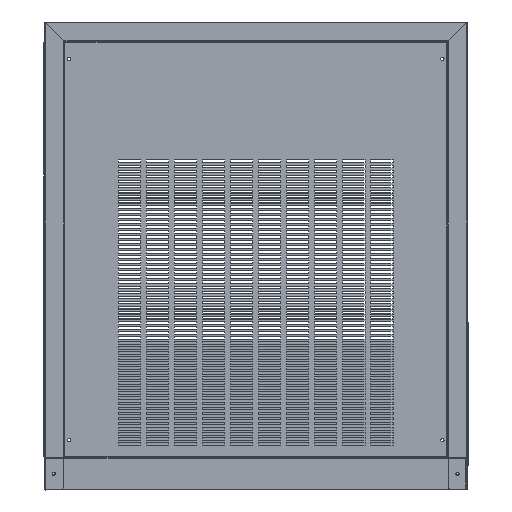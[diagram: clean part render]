
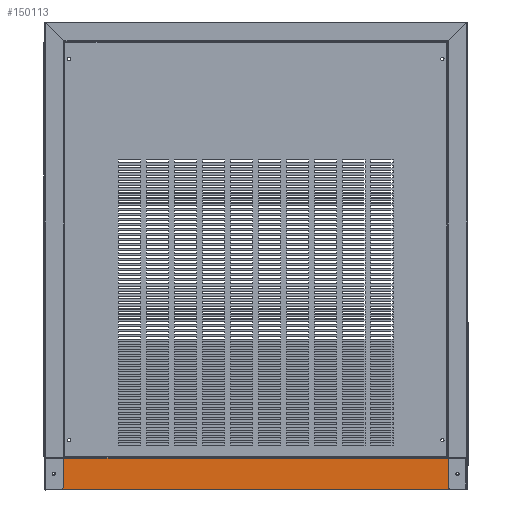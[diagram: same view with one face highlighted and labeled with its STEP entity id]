
A CAD part, left-side view. The second image highlights one B-rep face of the part: STEP entity #150113.
In plain terms, the highlighted planar face has unit normal (-1, 0, 0) as drawn and (1, 0, 0) by its records, which use the part's own axes.
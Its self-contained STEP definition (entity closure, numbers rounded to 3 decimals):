
#1164=CIRCLE('',#158550,2.067);
#1166=CIRCLE('',#158553,2.067);
#41684=ORIENTED_EDGE('',*,*,#62387,.T.);
#41685=ORIENTED_EDGE('',*,*,#62385,.T.);
#41686=ORIENTED_EDGE('',*,*,#62393,.T.);
#41687=ORIENTED_EDGE('',*,*,#62381,.T.);
#41688=ORIENTED_EDGE('',*,*,#62374,.T.);
#41689=ORIENTED_EDGE('',*,*,#62390,.F.);
#41690=ORIENTED_EDGE('',*,*,#62394,.F.);
#62374=EDGE_CURVE('',#76108,#76109,#95838,.T.);
#62381=EDGE_CURVE('',#76112,#76108,#95843,.T.);
#62385=EDGE_CURVE('',#76115,#76115,#1164,.T.);
#62387=EDGE_CURVE('',#76117,#76117,#1166,.T.);
#62390=EDGE_CURVE('',#76119,#76109,#95847,.T.);
#62393=EDGE_CURVE('',#76121,#76112,#95850,.T.);
#62394=EDGE_CURVE('',#76121,#76119,#95851,.T.);
#76108=VERTEX_POINT('',#235061);
#76109=VERTEX_POINT('',#235063);
#76112=VERTEX_POINT('',#235078);
#76115=VERTEX_POINT('',#235086);
#76117=VERTEX_POINT('',#235091);
#76119=VERTEX_POINT('',#235099);
#76121=VERTEX_POINT('',#235107);
#95838=LINE('',#235064,#115580);
#95843=LINE('',#235077,#115585);
#95847=LINE('',#235100,#115589);
#95850=LINE('',#235106,#115592);
#95851=LINE('',#235108,#115593);
#115580=VECTOR('',#193043,1000.);
#115585=VECTOR('',#193060,1000.);
#115589=VECTOR('',#193078,1000.);
#115592=VECTOR('',#193085,1000.);
#115593=VECTOR('',#193086,1000.);
#126065=EDGE_LOOP('',(#41684));
#126066=EDGE_LOOP('',(#41685));
#126067=EDGE_LOOP('',(#41686,#41687,#41688,#41689,#41690));
#136498=FACE_BOUND('',#126065,.T.);
#136499=FACE_BOUND('',#126066,.T.);
#136500=FACE_BOUND('',#126067,.T.);
#143172=PLANE('',#158556);
#150113=ADVANCED_FACE('',(#136498,#136499,#136500),#143172,.F.);
#158550=AXIS2_PLACEMENT_3D('',#235085,#193067,#193068);
#158553=AXIS2_PLACEMENT_3D('',#235090,#193073,#193074);
#158556=AXIS2_PLACEMENT_3D('',#235105,#193083,#193084);
#193043=DIRECTION('',(0.,-1.,0.));
#193060=DIRECTION('',(0.,-1.,0.));
#193067=DIRECTION('',(-1.,0.,0.));
#193068=DIRECTION('',(0.,0.,1.));
#193073=DIRECTION('',(-1.,0.,0.));
#193074=DIRECTION('',(0.,0.,1.));
#193078=DIRECTION('',(0.,0.,1.));
#193083=DIRECTION('',(-1.,0.,0.));
#193084=DIRECTION('',(0.,1.,0.));
#193085=DIRECTION('',(0.,0.,1.));
#193086=DIRECTION('',(0.,-1.,0.));
#235061=CARTESIAN_POINT('',(626.,374.498,-0.002));
#235063=CARTESIAN_POINT('',(626.,-374.498,-0.002));
#235064=CARTESIAN_POINT('',(626.,374.498,-0.002));
#235077=CARTESIAN_POINT('',(626.,374.5,-0.002));
#235078=CARTESIAN_POINT('',(626.,374.5,-0.002));
#235085=CARTESIAN_POINT('',(626.,360.301,-27.5));
#235086=CARTESIAN_POINT('',(626.,360.301,-25.433));
#235090=CARTESIAN_POINT('',(626.,-360.3,-27.5));
#235091=CARTESIAN_POINT('',(626.,-360.3,-25.433));
#235099=CARTESIAN_POINT('',(626.,-374.498,-54.999));
#235100=CARTESIAN_POINT('',(626.,-374.498,-0.001));
#235105=CARTESIAN_POINT('',(626.,0.,624.999));
#235106=CARTESIAN_POINT('',(626.,374.5,-0.001));
#235107=CARTESIAN_POINT('',(626.,374.5,-54.999));
#235108=CARTESIAN_POINT('',(626.,375.,-54.999));
